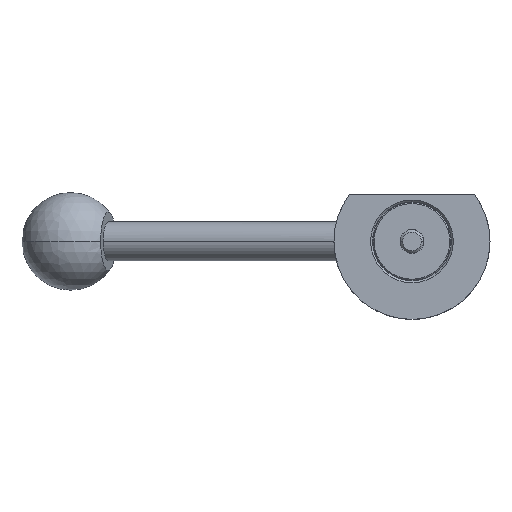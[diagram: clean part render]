
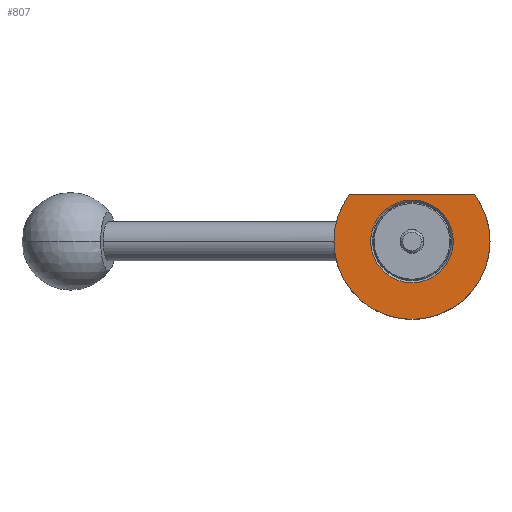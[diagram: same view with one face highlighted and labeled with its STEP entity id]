
A CAD part, front view. The second image highlights one B-rep face of the part: STEP entity #807.
In plain terms, the highlighted planar face has unit normal (0, -1, 0).
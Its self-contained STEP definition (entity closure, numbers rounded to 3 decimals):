
#62 = CARTESIAN_POINT ( 'NONE',  ( -20., -10., 0. ) ) ;
#117 = DIRECTION ( 'NONE',  ( -1., 0., 0. ) ) ;
#126 = VERTEX_POINT ( 'NONE', #62 ) ;
#127 = ORIENTED_EDGE ( 'NONE', *, *, #272, .F. ) ;
#247 = DIRECTION ( 'NONE',  ( 1., 0., 0. ) ) ;
#272 = EDGE_CURVE ( 'NONE', #833, #1791, #1178, .T. ) ;
#287 = CIRCLE ( 'NONE', #357, 10.6 ) ;
#301 = DIRECTION ( 'NONE',  ( 0., 1., 0. ) ) ;
#304 = CARTESIAN_POINT ( 'NONE',  ( -10.6, -10., 11.999 ) ) ;
#317 = CIRCLE ( 'NONE', #570, 20. ) ;
#330 = ORIENTED_EDGE ( 'NONE', *, *, #1587, .T. ) ;
#357 = AXIS2_PLACEMENT_3D ( 'NONE', #2009, #581, #1715 ) ;
#383 = DIRECTION ( 'NONE',  ( 0., 1., 0. ) ) ;
#392 = AXIS2_PLACEMENT_3D ( 'NONE', #1678, #1994, #117 ) ;
#402 = CARTESIAN_POINT ( 'NONE',  ( 10.6, -10., 0. ) ) ;
#415 = AXIS2_PLACEMENT_3D ( 'NONE', #743, #1225, #599 ) ;
#428 = CARTESIAN_POINT ( 'NONE',  ( -16.001, -10., 11.999 ) ) ;
#570 = AXIS2_PLACEMENT_3D ( 'NONE', #1400, #301, #2032 ) ;
#581 = DIRECTION ( 'NONE',  ( 0., 1., 0. ) ) ;
#599 = DIRECTION ( 'NONE',  ( -1., 0., 0. ) ) ;
#629 = ORIENTED_EDGE ( 'NONE', *, *, #1040, .T. ) ;
#674 = CARTESIAN_POINT ( 'NONE',  ( 16.001, -10., 11.999 ) ) ;
#743 = CARTESIAN_POINT ( 'NONE',  ( 0., -10., 0. ) ) ;
#807 = ADVANCED_FACE ( 'NONE', ( #1025, #1033 ), #1171, .T. ) ;
#833 = VERTEX_POINT ( 'NONE', #674 ) ;
#835 = CARTESIAN_POINT ( 'NONE',  ( 0., -10., 0. ) ) ;
#940 = ORIENTED_EDGE ( 'NONE', *, *, #1560, .T. ) ;
#961 = EDGE_LOOP ( 'NONE', ( #127, #629, #1951, #1582 ) ) ;
#974 = VERTEX_POINT ( 'NONE', #1103 ) ;
#1013 = AXIS2_PLACEMENT_3D ( 'NONE', #835, #383, #1494 ) ;
#1025 = FACE_BOUND ( 'NONE', #1197, .T. ) ;
#1033 = FACE_OUTER_BOUND ( 'NONE', #961, .T. ) ;
#1040 = EDGE_CURVE ( 'NONE', #833, #2033, #1730, .T. ) ;
#1103 = CARTESIAN_POINT ( 'NONE',  ( -10.6, -10., 0. ) ) ;
#1142 = EDGE_CURVE ( 'NONE', #126, #2033, #1815, .T. ) ;
#1151 = DIRECTION ( 'NONE',  ( -1., 0., 0. ) ) ;
#1170 = EDGE_CURVE ( 'NONE', #1791, #126, #317, .T. ) ;
#1171 = PLANE ( 'NONE',  #1647 ) ;
#1178 = CIRCLE ( 'NONE', #415, 20. ) ;
#1193 = CARTESIAN_POINT ( 'NONE',  ( -10.6, -10., 0. ) ) ;
#1197 = EDGE_LOOP ( 'NONE', ( #940, #330 ) ) ;
#1225 = DIRECTION ( 'NONE',  ( 0., 1., 0. ) ) ;
#1283 = CIRCLE ( 'NONE', #392, 10.6 ) ;
#1400 = CARTESIAN_POINT ( 'NONE',  ( 0., -10., 0. ) ) ;
#1488 = CARTESIAN_POINT ( 'NONE',  ( 20., -10., 0. ) ) ;
#1494 = DIRECTION ( 'NONE',  ( -1., 0., 0. ) ) ;
#1560 = EDGE_CURVE ( 'NONE', #2057, #974, #1283, .T. ) ;
#1582 = ORIENTED_EDGE ( 'NONE', *, *, #1170, .F. ) ;
#1587 = EDGE_CURVE ( 'NONE', #974, #2057, #287, .T. ) ;
#1647 = AXIS2_PLACEMENT_3D ( 'NONE', #1193, #1823, #247 ) ;
#1678 = CARTESIAN_POINT ( 'NONE',  ( 0., -10., 0. ) ) ;
#1715 = DIRECTION ( 'NONE',  ( -1., 0., 0. ) ) ;
#1730 = LINE ( 'NONE', #304, #2037 ) ;
#1791 = VERTEX_POINT ( 'NONE', #1488 ) ;
#1815 = CIRCLE ( 'NONE', #1013, 20. ) ;
#1823 = DIRECTION ( 'NONE',  ( 0., -1., 0. ) ) ;
#1951 = ORIENTED_EDGE ( 'NONE', *, *, #1142, .F. ) ;
#1994 = DIRECTION ( 'NONE',  ( 0., 1., 0. ) ) ;
#2009 = CARTESIAN_POINT ( 'NONE',  ( 0., -10., 0. ) ) ;
#2032 = DIRECTION ( 'NONE',  ( -1., 0., 0. ) ) ;
#2033 = VERTEX_POINT ( 'NONE', #428 ) ;
#2037 = VECTOR ( 'NONE', #1151, 1000. ) ;
#2057 = VERTEX_POINT ( 'NONE', #402 ) ;
